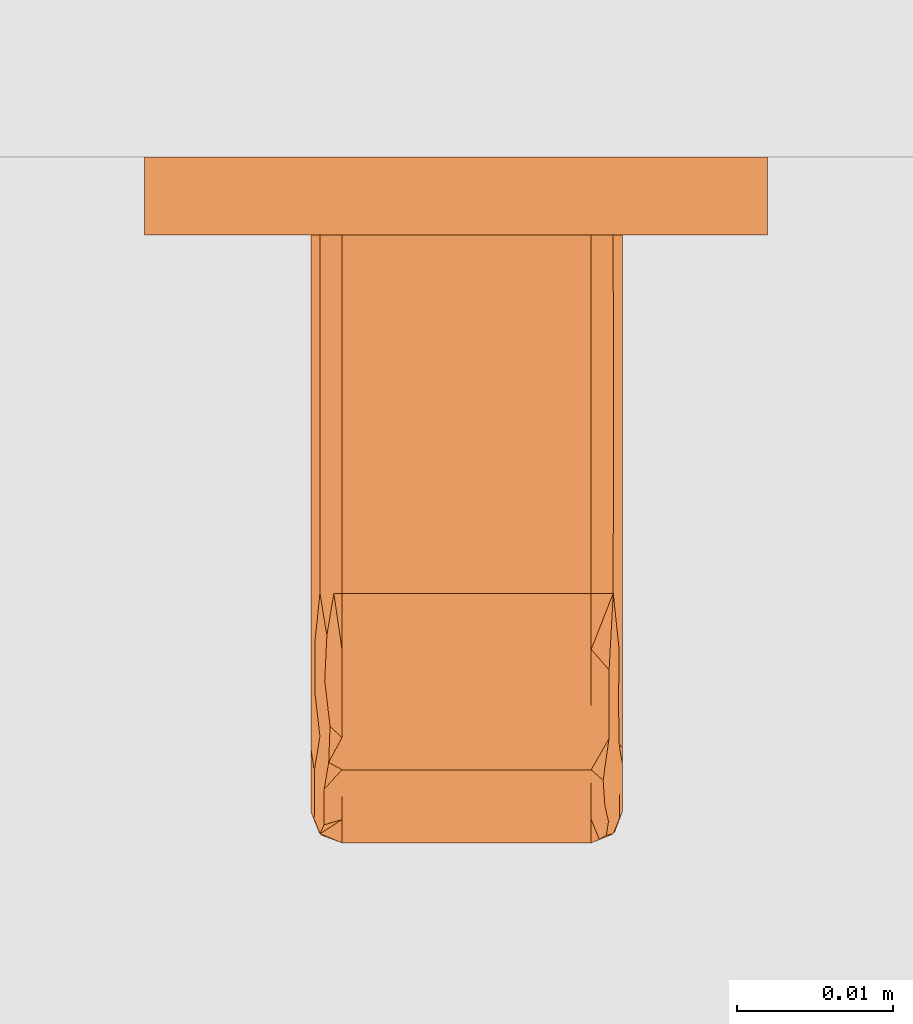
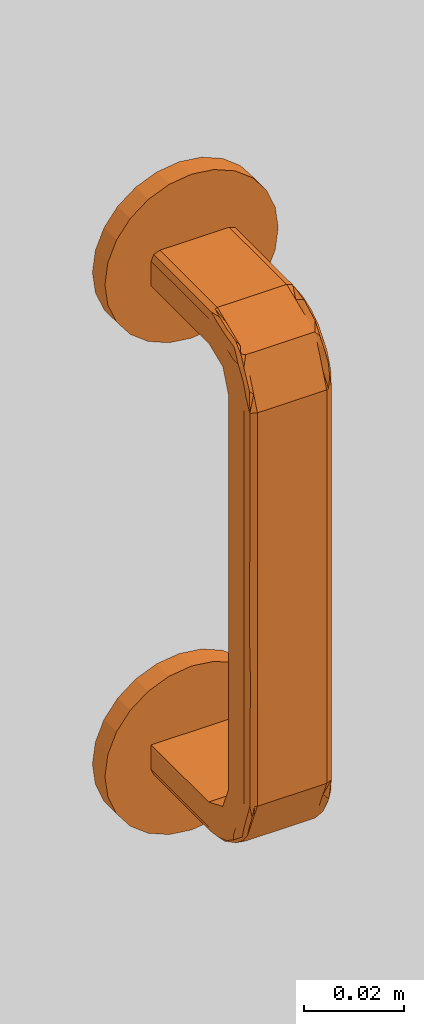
# One storey, part 64 of 67: 1 proxy.
"""IFC4 building model written with IfcOpenShell, lengths in millimetres."""

import ifcopenshell
import ifcopenshell.guid

model = None  # the IFC model being written
_history = None  # IfcOwnerHistory: only IFC2X3 demands one
_inside = {}  # id of a spatial element -> (the spatial element, [elements in it])
_under = {}  # id of a project, library or spatial element -> (it, [spatial elements below it])
_declared = {}  # id of a project -> (the project, [libraries it declares])
_typed = {}  # id of a type object -> (the type object, [elements of that type])
_made_of = {}  # id of a material, layer set ... -> (it, [elements and type objects made of it])


def new_model(schema):
    """Start an empty IFC model of exactly this schema.

    Asked for "IFC4X3", IfcOpenShell would pick the latest addendum, in which some entities
    have other attributes; the version numbers below select the first issue.
    IFC2X3 requires an IfcOwnerHistory on every rooted entity: one is made here for all.
    """
    global model, _history
    if schema == "IFC4X3":
        model = ifcopenshell.file(schema_version=(4, 3, 0, 0))
    else:
        model = ifcopenshell.file(schema=schema)
    _inside.clear()
    _under.clear()
    _declared.clear()
    _typed.clear()
    _made_of.clear()
    _history = None
    if model.schema == "IFC2X3":
        org = make("IfcOrganization", Name="unknown")
        user = make(
            "IfcPersonAndOrganization",
            ThePerson=make("IfcPerson", FamilyName="unknown"),
            TheOrganization=org,
        )
        app = make(
            "IfcApplication",
            ApplicationDeveloper=org,
            Version="unknown",
            ApplicationFullName="unknown",
            ApplicationIdentifier="unknown",
        )
        _history = make(
            "IfcOwnerHistory",
            OwningUser=user,
            OwningApplication=app,
            ChangeAction="ADDED",
            CreationDate=0,
        )
    return model


def make(cls, **values):
    """One entity of the class cls with the attributes given. An attribute that is None is left unset."""
    return model.create_entity(
        cls, **{name: value for name, value in values.items() if value is not None}
    )


def entity(cls, *values):
    """Any entity or typed value of the class cls, its attributes in the order of the schema. None: left unset."""
    e = model.create_entity(cls)
    for i, value in enumerate(values):
        if value is not None:
            e[i] = value
    return e


def rooted(cls, **values):
    """An entity with a GlobalId (a new one), such as an element, a storey or a relation."""
    return make(cls, GlobalId=ifcopenshell.guid.new(), OwnerHistory=_history, **values)


def si_unit(unit_type, name, prefix=None):
    """IfcSIUnit, for example si_unit("LENGTHUNIT", "METRE", prefix="MILLI")."""
    return make("IfcSIUnit", UnitType=unit_type, Prefix=prefix, Name=name)


def converted_unit(unit_type, name, factor, base, dimensions=None, offset=None):
    """IfcConversionBasedUnit, such as the inch: factor (a typed value) times the base unit."""
    return make(
        "IfcConversionBasedUnit"
        if offset is None
        else "IfcConversionBasedUnitWithOffset",
        ConversionOffset=offset,
        Dimensions=None
        if dimensions is None
        else entity("IfcDimensionalExponents", *dimensions),
        UnitType=unit_type,
        Name=name,
        ConversionFactor=make(
            "IfcMeasureWithUnit", ValueComponent=factor, UnitComponent=base
        ),
    )


def assignment(units):
    """IfcUnitAssignment: the units of a project."""
    return None if units is None else make("IfcUnitAssignment", Units=units)


def point(xyz):
    """IfcCartesianPoint."""
    return None if xyz is None else make("IfcCartesianPoint", Coordinates=xyz)


def direction(xyz):
    """IfcDirection."""
    return None if xyz is None else make("IfcDirection", DirectionRatios=xyz)


def frame(location, z_axis=None, x_axis=None):
    """IfcAxis2Placement3D, a coordinate frame: its origin and axes. An axis left out is left unset."""
    return make(
        "IfcAxis2Placement3D",
        Location=point(location),
        Axis=direction(z_axis),
        RefDirection=direction(x_axis),
    )


def origin():
    """The frame at (0, 0, 0) with its axes left unset."""
    return frame((0.0, 0.0, 0.0))


def place(relative_to, where):
    """IfcLocalPlacement: puts the frame where relative to a parent placement (None: the world)."""
    return make(
        "IfcLocalPlacement", PlacementRelTo=relative_to, RelativePlacement=where
    )


def context(
    kind, dimensions, precision=None, world=None, true_north=None, identifier=None
):
    """IfcGeometricRepresentationContext, for example the 3D "Model" context."""
    return make(
        "IfcGeometricRepresentationContext",
        ContextIdentifier=identifier,
        ContextType=kind,
        CoordinateSpaceDimension=dimensions,
        Precision=precision,
        WorldCoordinateSystem=world,
        TrueNorth=true_north,
    )


def subcontext(parent, identifier, kind, view, scale=None):
    """IfcGeometricRepresentationSubContext, for example "Body" below "Model"."""
    return make(
        "IfcGeometricRepresentationSubContext",
        ContextIdentifier=identifier,
        ContextType=kind,
        ParentContext=parent,
        TargetScale=scale,
        TargetView=view,
    )


def project(units=None, contexts=None):
    """IfcProject with its units and contexts."""
    return rooted(
        "IfcProject",
        Name="project",
        RepresentationContexts=contexts,
        UnitsInContext=assignment(units),
    )


def spatial(cls, under=None, at=None, **own):
    """A site, building, storey or space (cls), placed at a placement, below another one or the project."""
    s = rooted(cls, ObjectPlacement=at, **own)
    if under is not None:
        _under.setdefault(under.id(), (under, []))[1].append(s)
    return s


def point_list(points):
    """IfcCartesianPointList2D or 3D."""
    cls = (
        "IfcCartesianPointList2D" if len(points[0]) == 2 else "IfcCartesianPointList3D"
    )
    return make(cls, CoordList=points)


def polygons(points, faces, closed=None, point_numbers=None):
    """IfcPolygonalFaceSet: a face is its outer loop, then its inner loops; points numbered from 1."""
    made = []
    for loops in faces:
        if len(loops) == 1:
            made.append(make("IfcIndexedPolygonalFace", CoordIndex=loops[0]))
        else:
            made.append(
                make(
                    "IfcIndexedPolygonalFaceWithVoids",
                    CoordIndex=loops[0],
                    InnerCoordIndices=loops[1:],
                )
            )
    return make(
        "IfcPolygonalFaceSet",
        Coordinates=point_list(points),
        Closed=closed,
        Faces=made,
        PnIndex=point_numbers,
    )


def shape(context_of_items, identifier, shape_type, items):
    """IfcShapeRepresentation: the items that make up one representation, for example the "Body"."""
    return make(
        "IfcShapeRepresentation",
        ContextOfItems=context_of_items,
        RepresentationIdentifier=identifier,
        RepresentationType=shape_type,
        Items=items,
    )


def source(mapping_origin, context_of_items, identifier, shape_type, items):
    """IfcRepresentationMap: a shape defined once, which mapped items show again and again."""
    return make(
        "IfcRepresentationMap",
        MappingOrigin=mapping_origin,
        MappedRepresentation=shape(context_of_items, identifier, shape_type, items),
    )


def transform(
    local_origin,
    x_axis=None,
    y_axis=None,
    z_axis=None,
    scale=None,
    scale2=None,
    scale3=None,
    uniform=True,
):
    """IfcCartesianTransformationOperator3D, or its non-uniform kind. x_axis, y_axis, z_axis: its Axis1, 2, 3."""
    if uniform:
        return make(
            "IfcCartesianTransformationOperator3D",
            Axis1=direction(x_axis),
            Axis2=direction(y_axis),
            LocalOrigin=point(local_origin),
            Scale=scale,
            Axis3=direction(z_axis),
        )
    return make(
        "IfcCartesianTransformationOperator3DnonUniform",
        Axis1=direction(x_axis),
        Axis2=direction(y_axis),
        LocalOrigin=point(local_origin),
        Scale=scale,
        Axis3=direction(z_axis),
        Scale2=scale2,
        Scale3=scale3,
    )


def mapped(mapping_source, mapping_target):
    """IfcMappedItem: shows the shape of a source again, moved by a transform."""
    return make(
        "IfcMappedItem", MappingSource=mapping_source, MappingTarget=mapping_target
    )


def material(Name=None, Category=None):
    """IfcMaterial."""
    return make("IfcMaterial", Name=Name, Category=Category)


def made_of(thing, what):
    """Note that an element or type object is made of a material, layer set ...; save() writes the relation."""
    if what is not None:
        _made_of.setdefault(what.id(), (what, []))[1].append(thing)
    return thing


def type_object(cls, material=None, **own):
    """A type object (cls), such as IfcWallType, which elements share."""
    return made_of(rooted(cls, **own), material)


def type_shapes(of_type, sources):
    """Give a type object the sources (RepresentationMaps) that its elements show as mapped items."""
    of_type.RepresentationMaps = sources


def element(
    cls,
    number,
    at=None,
    inside=None,
    cuts=None,
    type_object=None,
    material=None,
    context=None,
    identifier="Body",
    shape_type=None,
    held_by="IfcProductDefinitionShape",
    body=None,
    shapes=None,
    **own,
):
    """One element of the class cls, such as IfcWall. Its Tag is "e" and its number.

    at: its placement. inside: the storey or other place that contains it. cuts: it is an
    opening in that element (IfcRelVoidsElement). A single representation is given by context,
    identifier, shape_type and body (its items); several are given by shapes. held_by: the class
    of the entity that holds the representations. save() writes the other relations.
    """
    e = rooted(cls, Tag="e%d" % number, ObjectPlacement=at, **own)
    if body is not None:
        shapes = [shape(context, identifier, shape_type, body)]
    if shapes is not None:
        e.Representation = make(held_by, Representations=shapes)
    if inside is not None:
        _inside.setdefault(inside.id(), (inside, []))[1].append(e)
    if cuts is not None:
        rooted(
            "IfcRelVoidsElement", RelatingBuildingElement=cuts, RelatedOpeningElement=e
        )
    if type_object is not None:
        _typed.setdefault(type_object.id(), (type_object, []))[1].append(e)
    return made_of(e, material)


def aggregate(whole, parts):
    """IfcRelAggregates: a whole, such as a stair, and the parts it consists of."""
    return rooted("IfcRelAggregates", RelatingObject=whole, RelatedObjects=parts)


def save(model, path):
    """Write the relations noted so far, then the file.

    IfcRelAggregates (storeys below a building ...), IfcRelContainedInSpatialStructure (elements
    in a storey), IfcRelDefinesByType, IfcRelAssociatesMaterial and IfcRelDeclares: one each for
    every whole, place, type object, material and project.
    """
    for whole, parts in _under.values():
        aggregate(whole, parts)
    for where, things in _inside.values():
        rooted(
            "IfcRelContainedInSpatialStructure",
            RelatedElements=things,
            RelatingStructure=where,
        )
    for kind, things in _typed.values():
        rooted("IfcRelDefinesByType", RelatedObjects=things, RelatingType=kind)
    for what, things in _made_of.values():
        rooted("IfcRelAssociatesMaterial", RelatedObjects=things, RelatingMaterial=what)
    for by, libraries in _declared.values():
        rooted("IfcRelDeclares", RelatingContext=by, RelatedDefinitions=libraries)
    model.write(path)


model = new_model("IFC4")

# Units and contexts
model_context = context("Model", 3, precision=0.01, world=origin(), true_north=direction((0.0, 1.0)))
body_context = subcontext(model_context, "Body", "Model", "MODEL_VIEW")
ifc_project = project(units=[si_unit("LENGTHUNIT", "METRE", prefix="MILLI"), si_unit("AREAUNIT", "SQUARE_METRE"), si_unit("VOLUMEUNIT", "CUBIC_METRE"), converted_unit("PLANEANGLEUNIT", "DEGREE", entity("IfcPlaneAngleMeasure", 0.017453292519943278), si_unit("PLANEANGLEUNIT", "RADIAN"), dimensions=[0, 0, 0, 0, 0, 0, 0])], contexts=[model_context])

# Site, building, storey, space
site_placement = place(None, origin())
site = spatial("IfcSite", under=ifc_project, at=site_placement, Name="Tomtens navn", CompositionType="ELEMENT")
building_placement = place(site_placement, origin())
building = spatial("IfcBuilding", under=site, at=building_placement, Name="Byggets navn", CompositionType="ELEMENT")
storey_placement = place(building_placement, origin())
storey = spatial("IfcBuildingStorey", under=building, at=storey_placement, Name="Level 01", CompositionType="ELEMENT", Elevation=2.1993652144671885e-25)
space_placement = place(storey_placement, origin())
space = spatial("IfcSpace", under=storey, at=space_placement, Name="102", CompositionType="ELEMENT", PredefinedType="NOTDEFINED")

# Proxy
ifc_material = material(Name="Handtag, vitt", Category="Unassigned")
building_element_proxy_type = type_object("IfcBuildingElementProxyType", Name="Handtag skåp1:Handtag skåp", PredefinedType="NOTDEFINED", material=ifc_material)
shared_shape = source(origin(), body_context, "Body", "Tessellation", [
    polygons([(8.670220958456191, -4.999999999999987, 4.021099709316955), (10.084434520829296, -4.9999999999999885, 3.435313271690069), (10.67022095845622, -4.999999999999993, 2.021099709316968), (10.67022095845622, -5.0000000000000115, -4.0210997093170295), (-9.32977904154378, -5.0000000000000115, -4.0210997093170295), (-9.32977904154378, -4.999999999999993, 2.021099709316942), (-8.743992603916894, -4.9999999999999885, 3.435313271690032), (-7.32977904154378, -4.999999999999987, 4.021099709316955), (8.670220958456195, -28.00000000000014, 4.0210997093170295), (10.084434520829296, -28.000000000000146, 3.435313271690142), (10.67022095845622, -28.00000000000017, 2.021099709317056), (8.670220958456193, -15.654960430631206, 4.02109970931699), (10.67022095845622, -17.34503987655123, 2.021099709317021), (10.08659387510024, -16.21238630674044, 3.433150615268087), (10.67022095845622, -37.914414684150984, -2.085585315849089), (10.67022095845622, -42.02109970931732, -11.999999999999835), (10.67022095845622, -42.02109970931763, -107.99999999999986), (10.67022095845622, -37.914414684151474, -117.91441468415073), (10.67022095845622, -28.00000000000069, -122.02109970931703), (10.67022095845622, -4.999999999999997, -122.02109970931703), (10.67022095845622, -4.999999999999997, -115.97890029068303), (10.67022095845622, -28.000000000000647, -115.97890029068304), (10.67022095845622, -33.641934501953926, -113.64193450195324), (10.67022095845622, -35.978900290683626, -107.99999999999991), (10.67022095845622, -35.978900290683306, -11.999999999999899), (10.67022095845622, -33.64193450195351, -6.358065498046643), (10.67022095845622, -28.000000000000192, -4.021099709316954), (-9.32977904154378, -28.000000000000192, -4.021099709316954), (-9.32977904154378, -33.64193450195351, -6.358065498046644), (-9.32977904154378, -35.97890029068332, -11.999999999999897), (-9.32977904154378, -35.97890029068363, -107.99999999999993), (-9.32977904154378, -33.641934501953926, -113.64193450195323), (-9.32977904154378, -28.000000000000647, -115.978900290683), (-9.32977904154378, -4.999999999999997, -115.978900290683), (-9.32977904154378, -4.999999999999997, -122.02109970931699), (-9.32977904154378, -28.00000000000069, -122.02109970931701), (-9.32977904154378, -37.91441468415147, -117.91441468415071), (-9.32977904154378, -42.0210997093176, -107.9999999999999), (-9.32977904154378, -42.02109970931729, -11.99999999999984), (-9.32977904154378, -37.91441468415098, -2.085585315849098), (-9.32977904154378, -28.000000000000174, 2.0210997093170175), (-8.743992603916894, -28.000000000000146, 3.435313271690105), (-7.329779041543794, -28.000000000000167, 4.0210997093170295), (-9.32977904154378, -15.654960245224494, 2.0210997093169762), (-7.3297790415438, -17.3450402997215, 4.021099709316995), (-8.741829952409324, -16.212386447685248, 3.4374726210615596), (8.670220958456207, -39.328628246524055, -0.6713717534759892), (8.670220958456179, -44.021099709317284, -11.999999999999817), (10.084434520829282, -43.43531327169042, -11.999999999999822), (10.67022095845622, -31.601265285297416, 0.5294067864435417), (8.670220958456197, -41.037713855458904, -4.797469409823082), (10.084434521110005, -40.40873190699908, -2.820007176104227), (8.670220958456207, -35.20253058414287, 1.0377138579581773), (9.809043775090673, -37.34144424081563, 0.5752165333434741), (9.818751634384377, -32.92350079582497, 2.8642465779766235), (10.67022095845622, -39.96775719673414, -7.042792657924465), (10.377327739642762, -28.000000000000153, 2.7282064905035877), (8.670220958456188, -42.529406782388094, -8.398734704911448), (9.779150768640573, -42.65191997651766, -6.400304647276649), (10.431420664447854, -34.75591670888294, 1.3575143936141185), (10.447049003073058, -37.641402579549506, -0.5884869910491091), (10.67022095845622, -34.7578399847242, -0.7780892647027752), (10.453824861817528, -31.5292743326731, 2.5026982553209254), (8.670220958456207, -31.601265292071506, 2.5294067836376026), (8.670220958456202, -40.18317105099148, -2.7344205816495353), (9.435587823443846, -40.00295364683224, -1.6197407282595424), (9.543801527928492, -41.59747716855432, -3.9137042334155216), (10.67022095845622, -38.941085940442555, -4.564188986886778), (10.502246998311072, -40.95405539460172, -4.794062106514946), (10.477567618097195, -42.45420227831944, -8.476170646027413), (9.193272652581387, -43.80444460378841, -11.999999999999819), (9.638611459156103, -43.53877057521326, -9.303396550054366), (10.67022095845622, -40.99442845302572, -9.521396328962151), (-7.329779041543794, -44.021099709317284, -11.999999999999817), (-7.329779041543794, -39.328628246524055, -0.6713717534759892), (-8.743992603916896, -43.43531327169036, -11.999999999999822), (-7.329779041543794, -35.20253057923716, 1.0377138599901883), (-8.743992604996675, -37.179992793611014, 0.40873192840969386), (-9.32977904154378, -40.52940677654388, -8.39873469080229), (-7.329779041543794, -41.03771385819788, -4.7974694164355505), (-8.468601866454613, -40.57521654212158, -2.658555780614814), (-8.478309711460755, -42.86424658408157, -7.076499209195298), (-9.32977904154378, -32.95720734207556, -0.03224280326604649), (-9.036885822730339, -42.72820649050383, -11.999999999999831), (-7.329779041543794, -31.601265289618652, 2.529406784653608), (-8.43870885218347, -33.59969531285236, 2.6519199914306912), (-9.090978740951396, -41.35751443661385, -5.244083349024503), (-9.106607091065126, -39.41151304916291, -2.3585974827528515), (-9.32977904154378, -39.221910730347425, -5.242160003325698), (-9.11338295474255, -42.50269824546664, -8.470725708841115), (-7.329779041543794, -42.52940678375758, -8.398734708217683), (-7.329779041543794, -37.26557941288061, 0.18317105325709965), (-8.095145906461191, -36.54048464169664, 1.37463273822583), (-8.182791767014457, -38.855367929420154, -0.47819170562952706), (-9.32977904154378, -35.43581101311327, -1.0589140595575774), (-7.852830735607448, -28.00000000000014, 3.8044446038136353), (-8.29816953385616, -30.69660343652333, 3.5387705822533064), (-9.060718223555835, -31.048754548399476, 2.7104148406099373), (-9.074370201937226, -34.340507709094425, 1.5930015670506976), (-9.32977904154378, -30.47860367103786, 0.9944284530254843), (-7.32977904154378, -33.664314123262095, 1.6748639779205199), (8.670220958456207, -33.664314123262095, 1.6748639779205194), (8.670220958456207, -30.748770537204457, 2.882521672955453), (-7.32977904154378, -41.67486397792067, -6.335685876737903), (8.670220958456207, -41.67486397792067, -6.335685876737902), (8.670220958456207, -40.50174611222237, -3.5035288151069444), (-7.32977904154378, -36.496471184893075, 0.5017461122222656), (8.670220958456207, -36.496471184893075, 0.5017461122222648), (-7.32977904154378, -30.83215706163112, 2.847981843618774), (8.670220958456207, -42.882521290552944, -9.251228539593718), (-7.32977904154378, -42.84798184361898, -9.167842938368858), (-7.32977904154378, -40.501746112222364, -3.5035288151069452), (8.670220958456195, -44.0210997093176, -107.99999999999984), (10.084434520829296, -43.435313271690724, -107.99999999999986), (10.67022095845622, -42.02109970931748, -61.38015936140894), (8.670220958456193, -44.021099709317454, -59.99999999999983), (8.670220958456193, -44.02109970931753, -83.30991987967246), (10.67022095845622, -42.02109970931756, -84.69007929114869), (8.670220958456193, -44.021099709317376, -36.69008012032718), (10.67022095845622, -42.02109970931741, -36.69007929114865), (10.67022095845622, -42.02109970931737, -24.34503925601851), (8.670220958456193, -44.021099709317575, -95.65495940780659), (8.670220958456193, -44.02109970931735, -24.345040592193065), (10.67022095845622, -42.021099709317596, -95.65495996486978), (10.084434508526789, -43.43531328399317, -90.1725199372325), (10.67022095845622, -42.021099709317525, -73.03511932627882), (10.043884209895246, -43.4747328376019, -67.20763959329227), (10.084434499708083, -43.435313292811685, -30.517560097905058), (10.084434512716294, -43.435313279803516, -43.7229280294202), (10.67022095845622, -42.021099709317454, -49.035119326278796), (10.049878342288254, -43.469044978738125, -55.462843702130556), (8.670220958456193, -44.02109970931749, -71.65495993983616), (10.188152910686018, -43.32336027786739, -78.66752152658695), (8.670220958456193, -44.02109970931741, -48.345040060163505), (-8.743992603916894, -43.43531327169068, -107.99999999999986), (-7.329779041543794, -44.0210997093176, -107.99999999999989), (-7.3297790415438, -44.02109970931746, -61.38015933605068), (-9.32977904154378, -42.021099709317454, -59.999999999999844), (-9.32977904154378, -42.02109970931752, -83.30992008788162), (-7.329779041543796, -44.02109970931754, -84.69007966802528), (-9.32977904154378, -42.02109970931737, -36.6900794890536), (-7.329779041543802, -44.021099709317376, -36.69007998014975), (-7.329779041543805, -44.02109970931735, -24.345039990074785), (-9.32977904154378, -42.02109970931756, -95.65495983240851), (-9.32977904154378, -42.02109970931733, -24.34503974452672), (-7.329779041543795, -44.021099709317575, -95.6549600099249), (-8.743992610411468, -43.43531326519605, -90.17252002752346), (-7.329779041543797, -44.0210997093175, -73.03511950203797), (-8.783412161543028, -43.39476296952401, -67.20763991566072), (-8.743992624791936, -43.43531325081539, -30.51756039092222), (-8.743992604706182, -43.43531327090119, -43.72292838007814), (-7.3297790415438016, -44.02109970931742, -49.03511997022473), (-8.777724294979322, -43.40075710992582, -55.462844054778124), (-9.32977904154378, -42.02109970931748, -71.65496025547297), (-8.632039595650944, -43.53903167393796, -78.66752173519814), (-9.32977904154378, -42.021099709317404, -48.34503974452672), (8.670220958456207, -39.32862824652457, -119.32862824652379), (8.670220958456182, -28.000000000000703, -124.02109970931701), (10.08443452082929, -28.0000000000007, -123.43531327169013), (10.67022095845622, -40.52940678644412, -111.60126528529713), (8.670220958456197, -35.202530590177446, -121.03771385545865), (10.084434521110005, -37.17999282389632, -120.40873190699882), (8.670220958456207, -41.03771385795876, -115.20253058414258), (9.809043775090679, -40.57521653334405, -117.34144424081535), (9.818751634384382, -42.864246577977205, -112.9235007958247), (10.67022095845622, -32.95720734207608, -119.96775719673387), (10.377327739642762, -42.728206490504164, -107.99999999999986), (8.67022095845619, -31.601265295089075, -122.52940678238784), (9.779150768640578, -33.59969535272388, -122.6519199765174), (10.431420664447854, -41.3575143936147, -114.75591670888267), (10.447049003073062, -39.41151300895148, -117.64140257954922), (10.67022095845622, -39.2219107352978, -114.75783998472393), (10.453824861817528, -42.50269825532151, -111.52927433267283), (8.670220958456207, -42.52940678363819, -111.60126529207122), (8.670220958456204, -37.26557941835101, -120.18317105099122), (9.435587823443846, -38.38025927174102, -120.00295364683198), (9.543801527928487, -36.08629576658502, -121.59747716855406), (10.67022095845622, -35.435811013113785, -118.9410859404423), (10.502246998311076, -35.205937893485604, -120.95405539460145), (10.477567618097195, -31.52382935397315, -122.45420227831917), (9.193272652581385, -28.0000000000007, -123.80444460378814), (9.638611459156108, -30.69660344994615, -123.538770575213), (10.67022095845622, -30.47860367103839, -120.99442845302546), (-7.329779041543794, -28.000000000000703, -124.02109970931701), (-7.329779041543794, -39.32862824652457, -119.32862824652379), (-8.743992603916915, -28.0000000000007, -123.43531327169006), (-7.329779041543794, -41.03771385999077, -115.20253057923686), (-8.743992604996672, -40.40873192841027, -117.17999279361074), (-9.32977904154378, -31.60126530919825, -120.52940677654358), (-7.329779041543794, -35.20253058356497, -121.03771385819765), (-8.468601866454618, -37.341444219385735, -120.57521654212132), (-8.478309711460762, -32.92350079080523, -122.8642465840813), (-9.32977904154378, -39.967757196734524, -112.9572073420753), (-9.036885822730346, -28.000000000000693, -122.72820649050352), (-7.329779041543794, -42.529406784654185, -111.60126528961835), (-8.438708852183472, -42.65191999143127, -113.59969531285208), (-9.090978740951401, -34.75591665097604, -121.35751443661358), (-9.106607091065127, -37.64140251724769, -119.41151304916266), (-9.32977904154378, -34.75783999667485, -119.22191073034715), (-9.113382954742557, -31.529274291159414, -122.50269824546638), (-7.329779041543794, -31.601265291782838, -122.52940678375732), (-7.329779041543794, -40.18317105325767, -117.26557941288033), (-8.095145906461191, -41.37463273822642, -116.54048464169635), (-8.182791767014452, -39.521808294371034, -118.8553679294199), (-9.32977904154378, -38.941085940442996, -115.435811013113), (-7.852830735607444, -43.804444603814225, -107.99999999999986), (-8.298169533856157, -43.53877058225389, -110.69660343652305), (-9.060718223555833, -42.710414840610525, -111.04875454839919), (-9.074370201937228, -41.59300156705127, -114.34050770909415), (-9.32977904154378, -40.99442845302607, -110.47860367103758), (-7.32977904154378, -41.6748639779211, -113.66431412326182), (8.670220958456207, -41.6748639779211, -113.66431412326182), (8.670220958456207, -42.88252167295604, -110.74877053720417), (-7.32977904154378, -33.66431412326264, -121.67486397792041), (8.670220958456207, -33.66431412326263, -121.67486397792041), (8.670220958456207, -36.4964711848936, -120.50174611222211), (-7.32977904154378, -40.50174611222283, -116.49647118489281), (8.670220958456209, -40.50174611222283, -116.49647118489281), (-7.32977904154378, -42.84798184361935, -110.83215706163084), (8.670220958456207, -30.748771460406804, -122.88252129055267), (-7.32977904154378, -30.832157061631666, -122.84798184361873), (-7.32977904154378, -36.49647118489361, -120.50174611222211), (8.670220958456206, -4.99999999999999, -124.02109970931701), (-7.329779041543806, -4.99999999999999, -124.021099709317), (-8.743992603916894, -4.99999999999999, -123.43531327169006), (10.084434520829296, -4.99999999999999, -123.43531327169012), (8.670220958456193, -17.345041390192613, -124.021099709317), (10.67022095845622, -15.654959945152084, -122.02109970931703), (10.086593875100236, -16.787613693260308, -123.43315061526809), (-9.32977904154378, -17.34504010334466, -122.02109970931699), (-7.3297790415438, -15.654959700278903, -124.021099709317), (-8.741829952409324, -16.787613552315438, -123.43747262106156)], [[[8, 1, 2, 3, 4, 5, 6, 7]], [[30, 25, 24, 31]], [[35, 34, 21, 20, 226, 223, 224, 225]], [[13, 10, 57, 11]], [[10, 13, 14]], [[14, 12, 9]], [[12, 2, 1]], [[14, 2, 12]], [[3, 14, 13]], [[3, 2, 14]], [[9, 10, 14]], [[4, 3, 13, 11, 50, 62, 15, 68, 56, 73, 16, 121, 120, 130, 115, 126, 118, 124, 17, 160, 172, 18, 178, 166, 183, 19, 228, 20, 21, 22, 23, 24, 25, 26, 27]], [[5, 4, 27, 28]], [[184, 231, 224, 223, 227, 158]], [[34, 35, 230, 36, 189, 199, 37, 205, 193, 210, 38, 144, 139, 154, 138, 156, 141, 145, 39, 79, 89, 40, 95, 83, 100, 41, 44, 6, 5, 28, 29, 30, 31, 32, 33]], [[45, 42, 96, 43]], [[42, 45, 46]], [[46, 44, 41]], [[44, 7, 6]], [[46, 7, 44]], [[8, 46, 45]], [[8, 7, 46]], [[41, 42, 46]], [[1, 8, 45, 43, 9, 12]], [[33, 22, 21, 34]], [[61, 62, 60]], [[69, 56, 68]], [[47, 65, 66]], [[53, 54, 55]], [[59, 51, 105, 58]], [[67, 65, 106, 51]], [[70, 56, 69]], [[63, 60, 50]], [[10, 64, 55]], [[52, 67, 59]], [[54, 53, 108, 47]], [[58, 71, 72]], [[60, 55, 54]], [[68, 61, 69]], [[67, 52, 66]], [[15, 61, 68]], [[63, 10, 55]], [[11, 57, 10, 63]], [[71, 58, 110, 48]], [[49, 16, 70]], [[61, 60, 54]], [[50, 11, 63]], [[52, 61, 54]], [[62, 61, 15]], [[62, 50, 60]], [[55, 60, 63]], [[10, 9, 103, 64]], [[55, 64, 102, 53]], [[52, 54, 66]], [[54, 47, 66]], [[65, 67, 66]], [[51, 59, 67]], [[61, 52, 69]], [[52, 59, 69]], [[70, 69, 59]], [[59, 72, 70]], [[70, 16, 73, 56]], [[72, 71, 49]], [[70, 72, 49]], [[58, 72, 59]], [[26, 29, 28, 27]], [[25, 30, 29, 26]], [[96, 85, 109, 43]], [[90, 87, 79]], [[86, 77, 101, 85]], [[98, 99, 86]], [[93, 92, 107, 77]], [[87, 82, 81]], [[81, 82, 80]], [[99, 95, 78]], [[88, 89, 87]], [[86, 99, 78]], [[78, 94, 93]], [[76, 91, 82]], [[81, 80, 112, 75]], [[92, 93, 94]], [[94, 78, 88]], [[40, 88, 95]], [[90, 76, 82]], [[39, 84, 76, 90]], [[98, 97, 42]], [[97, 98, 86]], [[88, 87, 81]], [[79, 39, 90]], [[88, 81, 94]], [[89, 88, 40]], [[89, 79, 87]], [[82, 87, 90]], [[76, 74, 111, 91]], [[82, 91, 104, 80]], [[77, 86, 93]], [[86, 78, 93]], [[81, 75, 94]], [[92, 94, 75]], [[95, 88, 78]], [[97, 96, 42]], [[85, 96, 97]], [[85, 97, 86]], [[42, 41, 98]], [[100, 83, 95, 99]], [[99, 98, 100]], [[98, 41, 100]], [[103, 9, 43, 109, 85, 101, 77, 107, 92, 75, 47, 108, 53, 102, 64]], [[105, 51, 106, 65, 47, 75, 112, 80, 104, 91, 111, 74, 48, 110, 58]], [[121, 16, 49, 128, 129, 130, 120]], [[118, 125, 114, 167, 17, 124]], [[126, 133, 118]], [[126, 115, 127]], [[123, 119, 134, 129, 128, 49, 71, 48]], [[125, 117, 122, 113, 114]], [[131, 130, 129]], [[130, 131, 115]], [[126, 127, 133]], [[127, 116, 132]], [[133, 117, 125]], [[131, 134, 116]], [[131, 116, 127]], [[115, 131, 127]], [[131, 129, 134]], [[133, 127, 132]], [[133, 132, 117]], [[118, 133, 125]], [[143, 74, 76, 150, 151, 152, 142]], [[140, 147, 135, 206, 136, 146]], [[148, 155, 140]], [[148, 137, 149]], [[145, 141, 156, 151, 150, 76, 84, 39]], [[147, 139, 144, 38, 135]], [[153, 152, 151]], [[152, 153, 137]], [[148, 149, 155]], [[149, 138, 154]], [[155, 139, 147]], [[153, 156, 138]], [[153, 138, 149]], [[137, 153, 149]], [[153, 151, 156]], [[155, 149, 154]], [[155, 154, 139]], [[140, 155, 147]], [[48, 74, 143, 142, 152, 137, 148, 140, 146, 136, 113, 122, 117, 132, 116, 134, 119, 123]], [[171, 172, 170]], [[179, 166, 178]], [[157, 176, 164]], [[163, 164, 165]], [[169, 161, 215, 168]], [[176, 157, 175]], [[180, 166, 179]], [[173, 170, 160]], [[114, 174, 165]], [[162, 177, 169]], [[164, 163, 218, 157]], [[168, 181, 182]], [[170, 165, 164]], [[178, 171, 179]], [[177, 162, 176]], [[18, 171, 178]], [[173, 114, 165]], [[17, 167, 114, 173]], [[181, 168, 220, 158]], [[159, 19, 180]], [[171, 170, 164]], [[160, 17, 173]], [[162, 171, 164]], [[172, 171, 18]], [[172, 160, 170]], [[165, 170, 173]], [[114, 113, 213, 174]], [[165, 174, 212, 163]], [[177, 175, 216, 161]], [[164, 176, 162]], [[175, 177, 176]], [[161, 169, 177]], [[171, 162, 179]], [[162, 169, 179]], [[180, 179, 169]], [[169, 182, 180]], [[180, 19, 183, 166]], [[182, 181, 159]], [[180, 182, 159]], [[168, 182, 169]], [[23, 32, 31, 24]], [[22, 33, 32, 23]], [[206, 195, 219, 136]], [[200, 197, 189]], [[196, 187, 211, 195]], [[208, 209, 196]], [[203, 202, 217, 187]], [[197, 192, 191]], [[191, 192, 190]], [[209, 205, 188]], [[198, 199, 197]], [[196, 209, 188]], [[188, 204, 203]], [[186, 201, 192]], [[191, 190, 222, 185]], [[202, 203, 204]], [[203, 196, 188]], [[37, 198, 205]], [[200, 186, 192]], [[36, 194, 186, 200]], [[208, 207, 135]], [[207, 208, 196]], [[198, 197, 191]], [[189, 36, 200]], [[198, 191, 204]], [[199, 198, 37]], [[199, 189, 197]], [[192, 197, 200]], [[186, 184, 221, 201]], [[192, 201, 214, 190]], [[196, 203, 187]], [[198, 204, 188]], [[191, 185, 204]], [[202, 204, 185]], [[205, 198, 188]], [[207, 206, 135]], [[195, 206, 207]], [[195, 207, 196]], [[135, 38, 208]], [[210, 193, 205, 209]], [[209, 208, 210]], [[208, 38, 210]], [[213, 113, 136, 219, 195, 211, 187, 217, 202, 185, 157, 218, 163, 212, 174]], [[215, 161, 216, 175, 157, 185, 222, 190, 214, 201, 221, 184, 158, 220, 168]], [[228, 226, 20]], [[226, 228, 229]], [[229, 227, 223]], [[227, 159, 181, 158]], [[229, 159, 227]], [[19, 229, 228]], [[19, 159, 229]], [[223, 226, 229]], [[231, 225, 224]], [[225, 231, 232]], [[232, 230, 35]], [[230, 186, 194, 36]], [[232, 186, 230]], [[184, 232, 231]], [[184, 186, 232]], [[35, 225, 232]]], closed=True),
    polygons([(-20.00000000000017, -4.999999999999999, 1.386238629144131e-14), (-19.318516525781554, -4.999999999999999, -5.176380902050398), (-17.320508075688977, -4.999999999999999, -9.999999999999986), (-14.14213562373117, -4.999999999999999, -14.142135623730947), (-10.000000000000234, -4.999999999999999, -17.320508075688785), (-5.176380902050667, -4.999999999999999, -19.318516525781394), (-2.580269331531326e-13, -4.999999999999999, -20.00000000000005), (5.176380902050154, -4.999999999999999, -19.31851652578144), (9.999999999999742, -4.999999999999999, -17.320508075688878), (14.142135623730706, -4.999999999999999, -14.142135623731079), (17.320508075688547, -4.999999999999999, -10.000000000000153), (19.318516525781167, -4.999999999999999, -5.176380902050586), (19.999999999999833, -4.999999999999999, -5.075939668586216e-14), (19.3185165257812, -4.999999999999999, 5.17638090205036), (17.32050807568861, -4.999999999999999, 9.999999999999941), (14.142135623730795, -4.999999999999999, 14.142135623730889), (9.99999999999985, -4.999999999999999, 17.32050807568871), (5.176380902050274, -4.999999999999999, 19.31851652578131), (-1.3958834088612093e-13, -4.999999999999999, 19.99999999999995), (-5.176380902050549, -4.999999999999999, 19.318516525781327), (-10.000000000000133, -4.999999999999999, 17.320508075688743), (-14.142135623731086, -4.999999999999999, 14.142135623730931), (-17.320508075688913, -4.999999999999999, 9.999999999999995), (-19.318516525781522, -4.999999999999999, 5.176380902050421), (-20.00000000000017, 0.0, 4.9806020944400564e-15), (-19.318516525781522, 0.0, 5.176380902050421), (-17.320508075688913, 0.0, 9.999999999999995), (-14.142135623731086, 0.0, 14.142135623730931), (-10.000000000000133, 0.0, 17.320508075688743), (-5.176380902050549, 0.0, 19.318516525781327), (-1.3958834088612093e-13, 0.0, 19.99999999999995), (5.176380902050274, 0.0, 19.31851652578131), (9.99999999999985, 0.0, 17.32050807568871), (14.142135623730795, 0.0, 14.142135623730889), (17.32050807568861, 0.0, 9.999999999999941), (19.3185165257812, 0.0, 5.17638090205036), (19.999999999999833, 0.0, -1.622393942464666e-13), (19.318516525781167, 0.0, -5.176380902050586), (17.320508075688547, 0.0, -10.000000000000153), (14.142135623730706, 0.0, -14.142135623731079), (9.999999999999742, 0.0, -17.320508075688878), (5.176380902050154, 0.0, -19.31851652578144), (-2.580269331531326e-13, 0.0, -20.00000000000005), (-5.176380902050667, 0.0, -19.318516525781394), (-10.000000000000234, 0.0, -17.320508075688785), (-14.14213562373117, 0.0, -14.142135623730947), (-17.320508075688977, 0.0, -9.999999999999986), (-19.318516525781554, 0.0, -5.176380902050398)], [[[8, 9, 10, 11, 12, 13, 14, 15, 16, 17, 18, 19, 20, 21, 22, 23, 24, 1, 2, 3, 4, 5, 6, 7]], [[31, 32, 33, 34, 35, 36, 37, 38, 39, 40, 41, 42, 43, 44, 45, 46, 47, 48, 25, 26, 27, 28, 29, 30]], [[48, 2, 1, 25]], [[47, 3, 2, 48]], [[5, 4, 46, 45]], [[47, 46, 4, 3]], [[6, 5, 45, 44]], [[7, 6, 44, 43]], [[42, 8, 7, 43]], [[41, 9, 8, 42]], [[11, 10, 40, 39]], [[41, 40, 10, 9]], [[12, 11, 39, 38]], [[13, 12, 38, 37]], [[36, 14, 13, 37]], [[35, 15, 14, 36]], [[17, 16, 34, 33]], [[35, 34, 16, 15]], [[18, 17, 33, 32]], [[19, 18, 32, 31]], [[30, 20, 19, 31]], [[29, 21, 20, 30]], [[23, 22, 28, 27]], [[29, 28, 22, 21]], [[24, 23, 27, 26]], [[1, 24, 26, 25]]], closed=True),
    polygons([(-20.000000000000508, -4.999999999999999, -120.0), (-19.31851652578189, -4.999999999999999, -125.17638090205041), (-17.32050807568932, -4.999999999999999, -130.0), (-14.142135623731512, -4.999999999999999, -134.14213562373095), (-10.000000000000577, -4.999999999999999, -137.3205080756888), (-5.176380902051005, -4.999999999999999, -139.3185165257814), (-6.006528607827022e-13, -4.999999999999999, -140.00000000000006), (5.176380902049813, -4.999999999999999, -139.31851652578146), (9.999999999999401, -4.999999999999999, -137.3205080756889), (14.142135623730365, -4.999999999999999, -134.1421356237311), (17.320508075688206, -4.999999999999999, -130.00000000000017), (19.318516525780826, -4.999999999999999, -125.1763809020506), (19.999999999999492, -4.999999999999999, -120.00000000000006), (19.31851652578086, -4.999999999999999, -114.82361909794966), (17.32050807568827, -4.999999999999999, -110.00000000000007), (14.142135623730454, -4.999999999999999, -105.85786437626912), (9.99999999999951, -4.999999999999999, -102.6794919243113), (5.176380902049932, -4.999999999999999, -100.6814834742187), (-4.779843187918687e-13, -4.999999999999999, -100.00000000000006), (-5.176380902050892, -4.999999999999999, -100.68148347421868), (-10.000000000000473, -4.999999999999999, -102.67949192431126), (-14.142135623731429, -4.999999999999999, -105.85786437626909), (-17.320508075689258, -4.999999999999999, -110.00000000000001), (-19.31851652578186, -4.999999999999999, -114.82361909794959), (-20.000000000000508, 0.0, -120.00000000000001), (-19.31851652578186, 0.0, -114.82361909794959), (-17.320508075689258, 0.0, -110.00000000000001), (-14.142135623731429, 0.0, -105.85786437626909), (-10.000000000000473, 0.0, -102.67949192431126), (-5.176380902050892, 0.0, -100.68148347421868), (-4.779843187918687e-13, 0.0, -100.00000000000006), (5.176380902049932, 0.0, -100.6814834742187), (9.99999999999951, 0.0, -102.6794919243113), (14.142135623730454, 0.0, -105.85786437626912), (17.32050807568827, 0.0, -110.00000000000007), (19.31851652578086, 0.0, -114.82361909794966), (19.999999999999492, 0.0, -120.00000000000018), (19.318516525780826, 0.0, -125.1763809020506), (17.320508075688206, 0.0, -130.00000000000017), (14.142135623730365, 0.0, -134.1421356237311), (9.999999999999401, 0.0, -137.3205080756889), (5.176380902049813, 0.0, -139.31851652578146), (-6.006528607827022e-13, 0.0, -140.00000000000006), (-5.176380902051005, 0.0, -139.3185165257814), (-10.000000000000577, 0.0, -137.3205080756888), (-14.142135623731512, 0.0, -134.14213562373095), (-17.32050807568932, 0.0, -130.0), (-19.31851652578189, 0.0, -125.17638090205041)], [[[7, 8, 9, 10, 11, 12, 13, 14, 15, 16, 17, 18, 19, 20, 21, 22, 23, 24, 1, 2, 3, 4, 5, 6]], [[31, 32, 33, 34, 35, 36, 37, 38, 39, 40, 41, 42, 43, 44, 45, 46, 47, 48, 25, 26, 27, 28, 29, 30]], [[48, 2, 1, 25]], [[47, 3, 2, 48]], [[5, 4, 46, 45]], [[47, 46, 4, 3]], [[6, 5, 45, 44]], [[7, 6, 44, 43]], [[42, 8, 7, 43]], [[41, 9, 8, 42]], [[11, 10, 40, 39]], [[41, 40, 10, 9]], [[12, 11, 39, 38]], [[13, 12, 38, 37]], [[36, 14, 13, 37]], [[35, 15, 14, 36]], [[17, 16, 34, 33]], [[35, 34, 16, 15]], [[18, 17, 33, 32]], [[19, 18, 32, 31]], [[30, 20, 19, 31]], [[29, 21, 20, 30]], [[23, 22, 28, 27]], [[29, 28, 22, 21]], [[24, 23, 27, 26]], [[1, 24, 26, 25]]], closed=True),
])
type_shapes(building_element_proxy_type, [shared_shape])
proxy_placement = place(space_placement, frame((68282.85352810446, 22311.466456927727, 1120.0)))
element("IfcBuildingElementProxy", 1, at=proxy_placement, inside=space, type_object=building_element_proxy_type, material=ifc_material, Name="Handtag skåp1:Handtag skåp", PredefinedType="NOTDEFINED", context=body_context, shape_type="MappedRepresentation", body=[
    mapped(shared_shape, transform((0.0, 0.0, 0.0), scale=1.0)),
])

save(model, "model.ifc")
